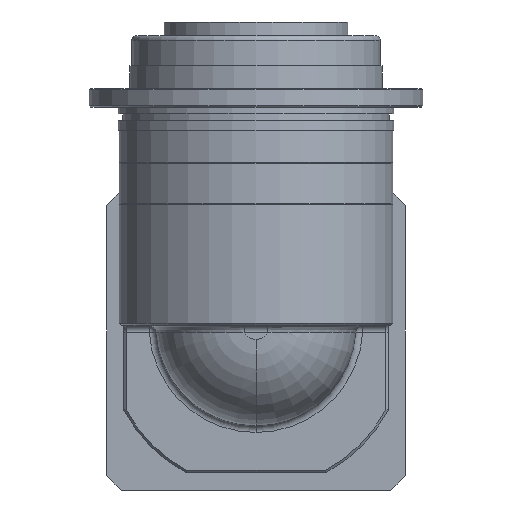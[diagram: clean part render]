
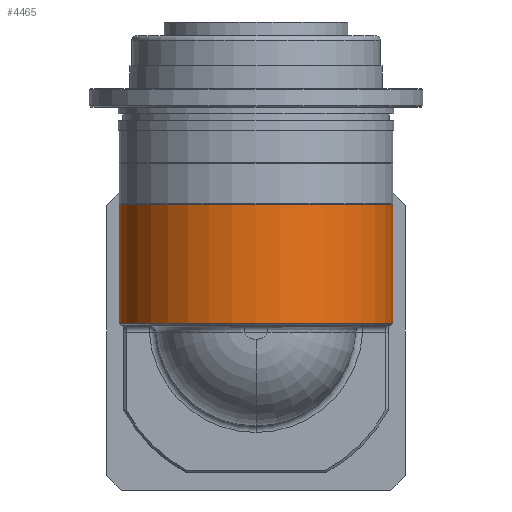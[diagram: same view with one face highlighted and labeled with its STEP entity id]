
A CAD part, front view. The second image highlights one B-rep face of the part: STEP entity #4465.
In plain terms, the highlighted cylindrical face has radius 59.5 mm (diameter 119 mm), a partial arc.
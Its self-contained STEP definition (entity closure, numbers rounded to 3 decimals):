
#50 = CARTESIAN_POINT ( 'NONE',  ( 0., 0., -42.5 ) ) ;
#60 = ORIENTED_EDGE ( 'NONE', *, *, #2788, .T. ) ;
#327 = CARTESIAN_POINT ( 'NONE',  ( 59.5, 0., -94. ) ) ;
#472 = CYLINDRICAL_SURFACE ( 'NONE', #3602, 59.5 ) ;
#500 = DIRECTION ( 'NONE',  ( 1., 0., 0. ) ) ;
#768 = DIRECTION ( 'NONE',  ( 0., 0., 1. ) ) ;
#837 = VERTEX_POINT ( 'NONE', #5439 ) ;
#1075 = CARTESIAN_POINT ( 'NONE',  ( -59.5, 0., -42.5 ) ) ;
#1112 = CIRCLE ( 'NONE', #5976, 59.5 ) ;
#1178 = CIRCLE ( 'NONE', #2459, 59.5 ) ;
#1926 = EDGE_CURVE ( 'NONE', #837, #5360, #1178, .T. ) ;
#1942 = ORIENTED_EDGE ( 'NONE', *, *, #1926, .T. ) ;
#2047 = CARTESIAN_POINT ( 'NONE',  ( -59.5, 0., -94. ) ) ;
#2206 = CARTESIAN_POINT ( 'NONE',  ( 0., 0., -94. ) ) ;
#2281 = ORIENTED_EDGE ( 'NONE', *, *, #5202, .T. ) ;
#2405 = CARTESIAN_POINT ( 'NONE',  ( 59.5, 0., -159. ) ) ;
#2459 = AXIS2_PLACEMENT_3D ( 'NONE', #50, #4821, #3955 ) ;
#2735 = DIRECTION ( 'NONE',  ( -1., 0., 0. ) ) ;
#2788 = EDGE_CURVE ( 'NONE', #3638, #5738, #1112, .T. ) ;
#2812 = DIRECTION ( 'NONE',  ( 0., 0., 1. ) ) ;
#3218 = CARTESIAN_POINT ( 'NONE',  ( 0., 0., -159. ) ) ;
#3534 = EDGE_CURVE ( 'NONE', #3638, #5360, #3610, .T. ) ;
#3602 = AXIS2_PLACEMENT_3D ( 'NONE', #3218, #2812, #500 ) ;
#3610 = LINE ( 'NONE', #5039, #5185 ) ;
#3638 = VERTEX_POINT ( 'NONE', #2047 ) ;
#3738 = EDGE_LOOP ( 'NONE', ( #4613, #60, #2281, #1942 ) ) ;
#3811 = FACE_OUTER_BOUND ( 'NONE', #3738, .T. ) ;
#3955 = DIRECTION ( 'NONE',  ( -1., 0., 0. ) ) ;
#4465 = ADVANCED_FACE ( 'NONE', ( #3811 ), #472, .T. ) ;
#4536 = VECTOR ( 'NONE', #5304, 1000. ) ;
#4613 = ORIENTED_EDGE ( 'NONE', *, *, #3534, .F. ) ;
#4716 = LINE ( 'NONE', #2405, #4536 ) ;
#4821 = DIRECTION ( 'NONE',  ( 0., 0., -1. ) ) ;
#5039 = CARTESIAN_POINT ( 'NONE',  ( -59.5, 0., -159. ) ) ;
#5185 = VECTOR ( 'NONE', #768, 1000. ) ;
#5202 = EDGE_CURVE ( 'NONE', #5738, #837, #4716, .T. ) ;
#5304 = DIRECTION ( 'NONE',  ( 0., 0., 1. ) ) ;
#5360 = VERTEX_POINT ( 'NONE', #1075 ) ;
#5439 = CARTESIAN_POINT ( 'NONE',  ( 59.5, 0., -42.5 ) ) ;
#5599 = DIRECTION ( 'NONE',  ( 0., 0., 1. ) ) ;
#5738 = VERTEX_POINT ( 'NONE', #327 ) ;
#5976 = AXIS2_PLACEMENT_3D ( 'NONE', #2206, #5599, #2735 ) ;
